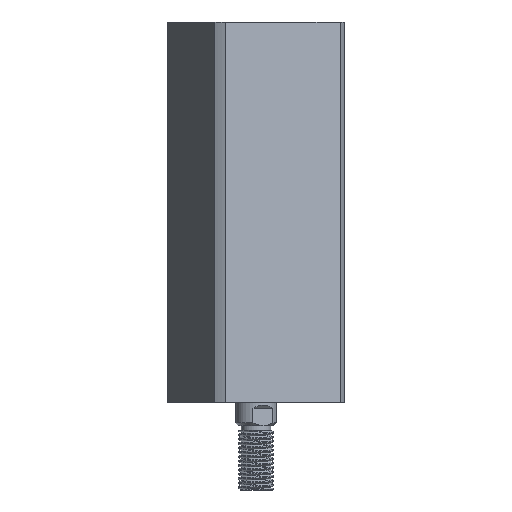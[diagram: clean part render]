
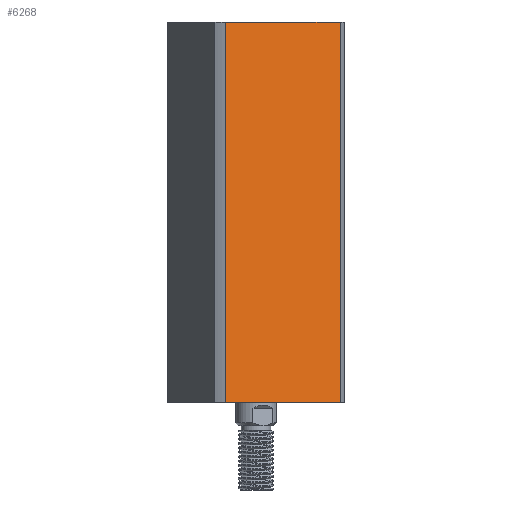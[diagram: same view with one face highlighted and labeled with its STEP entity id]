
A CAD part, left-side view. The second image highlights one B-rep face of the part: STEP entity #6268.
In plain terms, the highlighted planar face has unit normal (-0.924, -0.383, 0) as drawn and (1, 0, 0) by its records, which use the part's own axes.
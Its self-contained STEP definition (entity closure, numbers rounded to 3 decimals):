
#99 = CARTESIAN_POINT ( 'NONE',  ( 24., 21.166, -170. ) ) ;
#129 = EDGE_LOOP ( 'NONE', ( #2904, #5032, #5941, #5684 ) ) ;
#350 = DIRECTION ( 'NONE',  ( 0., 1., 0. ) ) ;
#734 = CARTESIAN_POINT ( 'NONE',  ( 24., -21.166, 0. ) ) ;
#850 = EDGE_CURVE ( 'NONE', #3079, #3445, #4319, .T. ) ;
#1328 = LINE ( 'NONE', #1823, #7713 ) ;
#1387 = CARTESIAN_POINT ( 'NONE',  ( 24., -21.166, -170. ) ) ;
#1519 = AXIS2_PLACEMENT_3D ( 'NONE', #2609, #6831, #1845 ) ;
#1823 = CARTESIAN_POINT ( 'NONE',  ( 24., 24., 0. ) ) ;
#1845 = DIRECTION ( 'NONE',  ( 0., -1., 0. ) ) ;
#2603 = DIRECTION ( 'NONE',  ( 0., 0., -1. ) ) ;
#2609 = CARTESIAN_POINT ( 'NONE',  ( 24., 24., 130. ) ) ;
#2850 = EDGE_CURVE ( 'NONE', #3079, #10301, #1328, .T. ) ;
#2904 = ORIENTED_EDGE ( 'NONE', *, *, #850, .F. ) ;
#3079 = VERTEX_POINT ( 'NONE', #734 ) ;
#3445 = VERTEX_POINT ( 'NONE', #3731 ) ;
#3731 = CARTESIAN_POINT ( 'NONE',  ( 24., -21.166, 130. ) ) ;
#4029 = VECTOR ( 'NONE', #350, 1000. ) ;
#4319 = LINE ( 'NONE', #1387, #6537 ) ;
#4370 = CARTESIAN_POINT ( 'NONE',  ( 24., 21.166, 130. ) ) ;
#4482 = EDGE_CURVE ( 'NONE', #8275, #10301, #5599, .T. ) ;
#5032 = ORIENTED_EDGE ( 'NONE', *, *, #2850, .T. ) ;
#5599 = LINE ( 'NONE', #99, #9798 ) ;
#5684 = ORIENTED_EDGE ( 'NONE', *, *, #7628, .F. ) ;
#5867 = CARTESIAN_POINT ( 'NONE',  ( 24., 21.166, 0. ) ) ;
#5941 = ORIENTED_EDGE ( 'NONE', *, *, #4482, .F. ) ;
#5990 = PLANE ( 'NONE',  #1519 ) ;
#6258 = DIRECTION ( 'NONE',  ( 0., 0., 1. ) ) ;
#6268 = ADVANCED_FACE ( 'NONE', ( #8786 ), #5990, .F. ) ;
#6537 = VECTOR ( 'NONE', #6258, 1000. ) ;
#6806 = DIRECTION ( 'NONE',  ( 0., 1., 0. ) ) ;
#6831 = DIRECTION ( 'NONE',  ( -1., 0., 0. ) ) ;
#7628 = EDGE_CURVE ( 'NONE', #3445, #8275, #8507, .T. ) ;
#7713 = VECTOR ( 'NONE', #6806, 1000. ) ;
#8275 = VERTEX_POINT ( 'NONE', #4370 ) ;
#8507 = LINE ( 'NONE', #9451, #4029 ) ;
#8786 = FACE_OUTER_BOUND ( 'NONE', #129, .T. ) ;
#9451 = CARTESIAN_POINT ( 'NONE',  ( 24., 24., 130. ) ) ;
#9798 = VECTOR ( 'NONE', #2603, 1000. ) ;
#10301 = VERTEX_POINT ( 'NONE', #5867 ) ;
